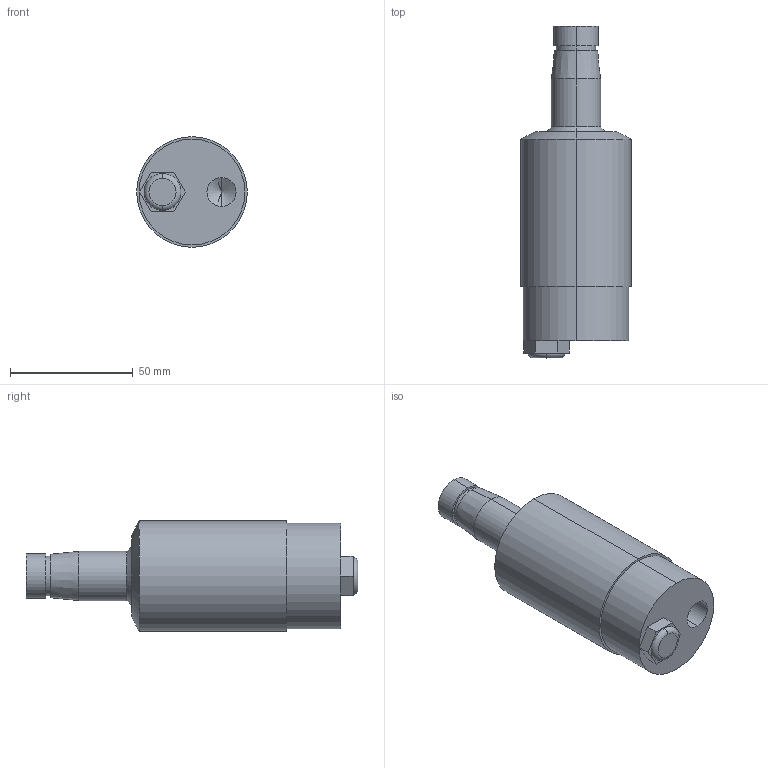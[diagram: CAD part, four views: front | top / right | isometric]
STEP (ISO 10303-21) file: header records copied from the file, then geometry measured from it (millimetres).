
FILE_DESCRIPTION (( 'STEP AP214' ), '1' );
FILE_NAME ('HPS-25-S-A.STEP', '2021-10-18T01:10:15', ( '' ), ( '' ), 'SwSTEP 2.0', 'SolidWorks 2016', '' );
FILE_SCHEMA (( 'AUTOMOTIVE_DESIGN' ));
Length unit declared in the file: millimetre
Products named in the file (1): HPS-25-S-A
Bounding box: 45 x 135 x 45 mm (x, y, z)
Volume: 141629.4 mm3; surface area: 18902.7 mm2
Topology: 1 solids, 2 shells, 41 faces, 86 edges, 52 vertices
Faces by surface type: plane 15, cylinder 14, cone 10, torus 2
Entity records: 1214 total; most frequent: DIRECTION 206, CARTESIAN_POINT 176, ORIENTED_EDGE 164, EDGE_CURVE 82, AXIS2_PLACEMENT_3D 82, VERTEX_POINT 52, EDGE_LOOP 48, LINE 42
